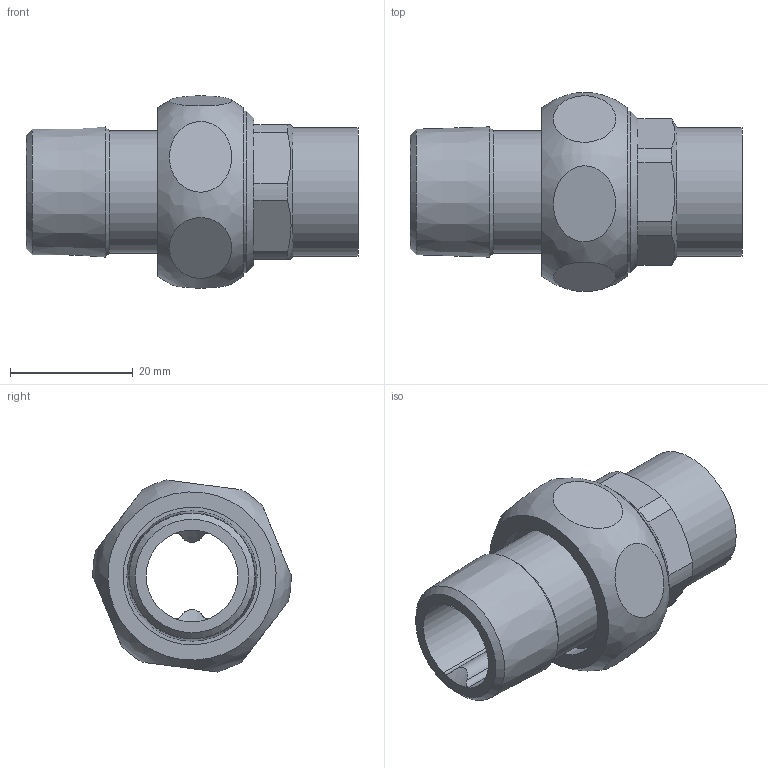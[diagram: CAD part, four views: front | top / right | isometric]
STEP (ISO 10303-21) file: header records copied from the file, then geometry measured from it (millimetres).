
FILE_DESCRIPTION((''),'2;1');
FILE_NAME('\\Lg50001\groups\SANHA Legnica\Engineering\Public\RYSUNKI\SANHA POLSKA\4341g\step\14341g_18-12(1).stp','2010-06-16T09:32:21',('pajchrowski'),(''),'Autodesk Inventor 2009','Autodesk Inventor 2009','');
FILE_SCHEMA(('AUTOMOTIVE_DESIGN { 1 0 10303 214 1 1 1 1 }'));
Length unit declared in the file: millimetre
Products named in the file (4): 14341g_18-12(1); 14382_12-34(2); 14374_34(2); 14380_18-34(0)
Assembly tree (3 placements, depth 2):
  14341g_18-12(1)
    14382_12-34(2)
    14374_34(2)
    14380_18-34(0)
Bounding box: 54.2 x 32.5 x 31.37 mm (x, y, z)
Volume: 13711.6 mm3; surface area: 10566.9 mm2
Topology: 3 solids, 3 shells, 63 faces, 126 edges, 78 vertices
Faces by surface type: plane 27, cylinder 23, cone 11, torus 1, bspline 1
Full cylindrical faces by diameter (mm): 17 x1, 18 x1, 20 x1, 21 x2, 22.5 x1, 23.5 x1, 24.117 x1, 26.44 x1
Entity records: 2771 total; most frequent: CARTESIAN_POINT 1446, DIRECTION 266, ORIENTED_EDGE 210, AXIS2_PLACEMENT_3D 120, EDGE_CURVE 105, EDGE_LOOP 96, VERTEX_POINT 75, FACE_OUTER_BOUND 63
